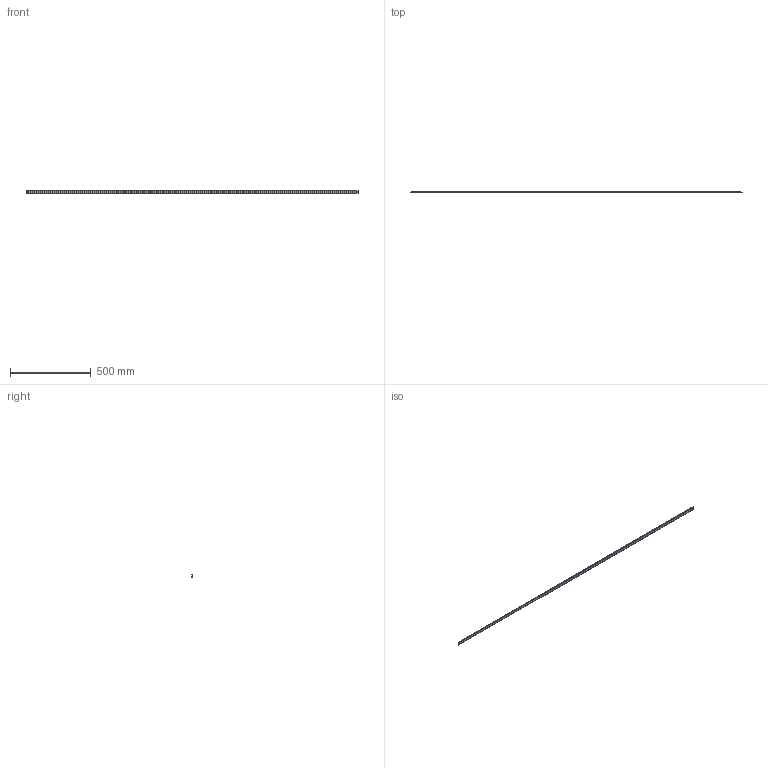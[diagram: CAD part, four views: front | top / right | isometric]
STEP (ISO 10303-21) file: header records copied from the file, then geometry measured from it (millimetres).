
FILE_DESCRIPTION (( 'STEP AP214' ), '1' );
FILE_NAME ('SAScale_exposed.ScaleLneght2060.STEP', '2026-03-16T07:32:45', ( '' ), ( '' ), 'SwSTEP 2.0', 'SolidWorks 2024', '' );
FILE_SCHEMA (( 'AUTOMOTIVE_DESIGN' ));
Length unit declared in the file: millimetre
Products named in the file (1): SAScale_exposed.ScaleLneght2060
Bounding box: 2060 x 6 x 18 mm (x, y, z)
Volume: 204769.7 mm3; surface area: 177128.1 mm2
Topology: 2 solids, 2 shells, 52 faces, 141 edges, 94 vertices
Faces by surface type: plane 37, cylinder 15
Entity records: 2247 total; most frequent: CARTESIAN_POINT 288, ORIENTED_EDGE 282, DIRECTION 277, EDGE_CURVE 141, VECTOR 111, LINE 111, VERTEX_POINT 94, AXIS2_PLACEMENT_3D 83
